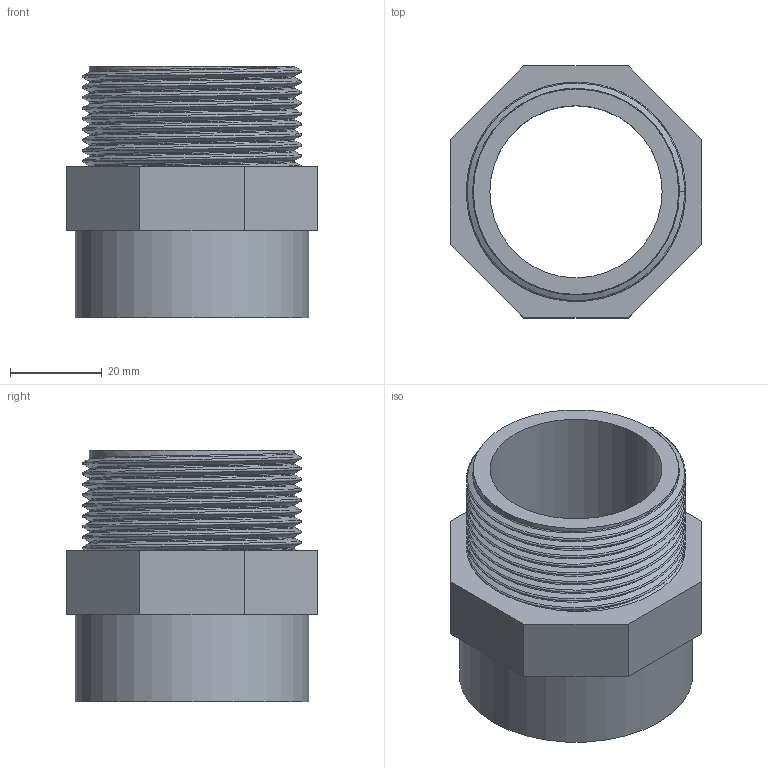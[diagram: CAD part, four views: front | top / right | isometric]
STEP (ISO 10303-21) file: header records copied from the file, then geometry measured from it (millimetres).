
FILE_DESCRIPTION(/* description */ (''),/* implementation_level */ '2;1');
FILE_NAME(/* name */ 'C:\Users\POLYPIPE\Desktop\DATASET INVENTOR\LIBRERIA EFFAST\RACCORDI 3DxWEB\RER\3D_RERRIE\3D_RERRIE050E.stp',/* time_stamp */ '2018-01-19T17:05:33+01:00',/* author */ ('POLYPIPE'),/* organization */ ('Polypipe Italia'),/* preprocessor_version */ 'ST-DEVELOPER v16.1',/* originating_system */ 'Autodesk Inventor 2016',/* authorisation */ '');
FILE_SCHEMA (('CONFIG_CONTROL_DESIGN'));
Length unit declared in the file: millimetre
Products named in the file (1): 3D_RERRIE050E
Bounding box: 55 x 55 x 55 mm (x, y, z)
Volume: 45582.2 mm3; surface area: 22483.7 mm2
Topology: 1 solids, 1 shells, 30 faces, 69 edges, 44 vertices
Faces by surface type: plane 15, bspline 10, cylinder 5
Full cylindrical faces by diameter (mm): 37.6 x1, 44.845 x1, 51 x1
Entity records: 8266 total; most frequent: CARTESIAN_POINT 7628, ORIENTED_EDGE 134, DIRECTION 99, EDGE_CURVE 67, VERTEX_POINT 44, EDGE_LOOP 37, AXIS2_PLACEMENT_3D 34, LINE 31
